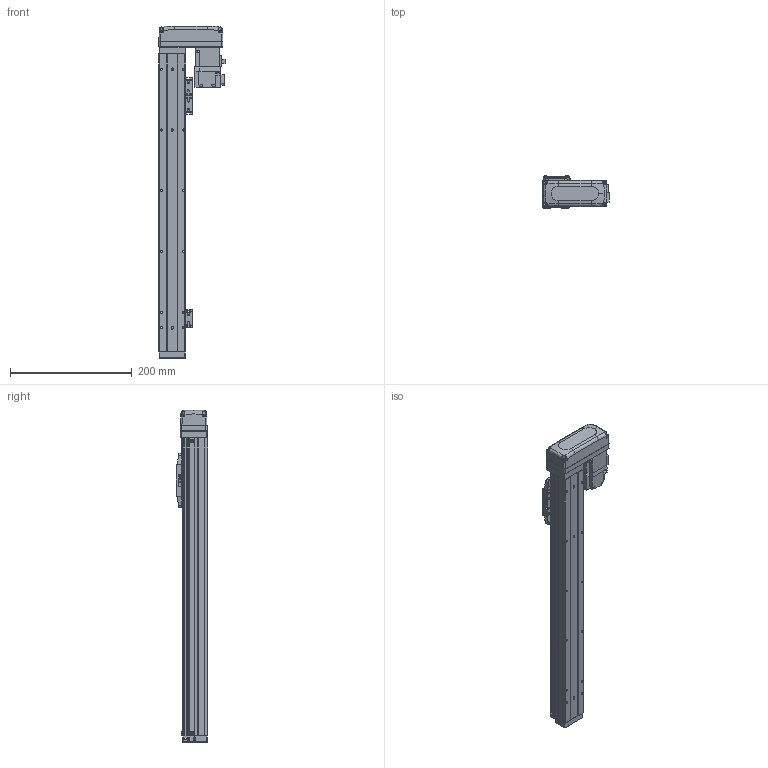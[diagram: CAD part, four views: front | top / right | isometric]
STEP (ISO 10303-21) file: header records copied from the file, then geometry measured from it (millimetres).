
FILE_DESCRIPTION (( 'STEP AP203' ), '1' );
FILE_NAME ('BTH40-350-BL-M05-C4.step', '2021-12-16T00:15:15', ( '微软用户' ), ( '微软中国' ), 'SwSTEP 2.0', 'SolidWorks 2020', '' );
FILE_SCHEMA (( 'CONFIG_CONTROL_DESIGN' ));
Length unit declared in the file: millimetre
Products named in the file (19): BTH40-004; BTH50-023; BTH40-013; BTH40-001-50_BTH40-001-350; BTH50-024; HG-KR13; BTH40-003; GBT 70.1-M3℅6; GBT 70.3-M3℅6; BTH40-006; GBT96.1-2002 3×0.8; BTH40-027-1; BTH-M3X5X6; BTH40-022; BTH50-026; GBT70.1-2000 M3×16; GBT 70.1-M2.5×6; BTH40-350-BL-M05-C4; BTH50-028
Assembly tree (47 placements, depth 2):
  BTH40-350-BL-M05-C4
    BTH40-001-50_BTH40-001-350
    BTH40-003
    BTH40-006
    BTH-M3X5X6  x8
    GBT70.1-2000 M3×16  x4
    BTH50-028  x2
    BTH50-023  x3
    BTH50-024  x3
    GBT 70.1-M3℅6  x6
    GBT96.1-2002 3×0.8  x6
    BTH40-022
    GBT 70.1-M2.5×6  x2
    BTH40-004
    BTH40-013
    HG-KR13
    GBT 70.3-M3℅6  x4
    BTH40-027-1
    BTH50-026
Bounding box: 108.8 x 52 x 546 mm (x, y, z)
Volume: 1056862.5 mm3; surface area: 196739 mm2
Topology: 49 solids, 49 shells, 1979 faces, 4647 edges, 2858 vertices
Faces by surface type: plane 1052, cylinder 491, cone 270, torus 128, bspline 34, sphere 4
Entity records: 39543 total; most frequent: CARTESIAN_POINT 7570, DIRECTION 6196, ORIENTED_EDGE 5940, EDGE_CURVE 2970, AXIS2_PLACEMENT_3D 2119, VECTOR 1958, LINE 1958, VERTEX_POINT 1845
